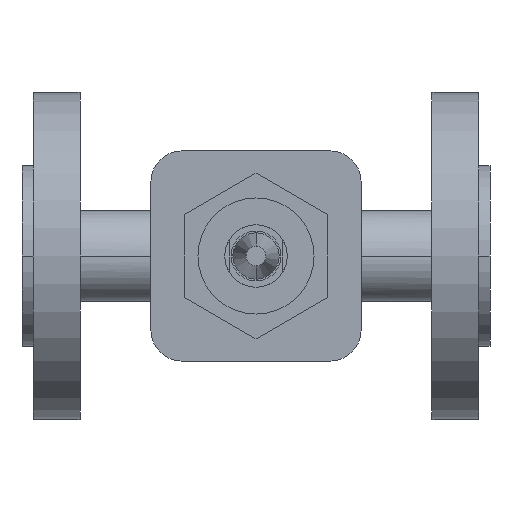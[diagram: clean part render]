
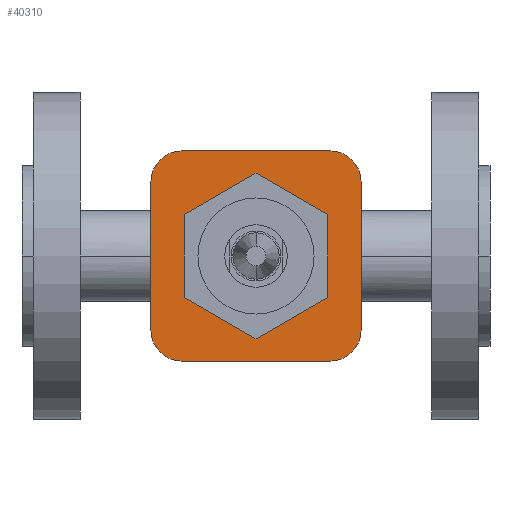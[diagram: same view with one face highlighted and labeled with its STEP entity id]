
A CAD part, front view. The second image highlights one B-rep face of the part: STEP entity #40310.
In plain terms, the highlighted planar face has unit normal (0, -1, 0).
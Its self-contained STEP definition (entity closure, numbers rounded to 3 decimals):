
#13800=CARTESIAN_POINT('',(54.,-62.,0.));
#13810=VERTEX_POINT('',#13800);
#13860=CARTESIAN_POINT('',(75.,-62.,0.));
#13870=DIRECTION('',(0.,1.,0.));
#13880=DIRECTION('',(1.,0.,0.));
#13890=AXIS2_PLACEMENT_3D('',#13860,#13870,#13880);
#13900=CIRCLE('',#13890,21.);
#13910=CARTESIAN_POINT('',(96.,-62.,0.));
#13920=VERTEX_POINT('',#13910);
#13930=EDGE_CURVE('',#13810,#13920,#13900,.T.);
#28080=CARTESIAN_POINT('',(51.312,-62.,-33.688));
#28090=VERTEX_POINT('',#28080);
#28250=CARTESIAN_POINT('',(41.312,-62.,-23.688));
#28260=VERTEX_POINT('',#28250);
#28290=CARTESIAN_POINT('',(51.312,-62.,-23.688));
#28300=DIRECTION('',(0.,-1.,0.));
#28310=DIRECTION('',(0.,0.,-1.));
#28320=AXIS2_PLACEMENT_3D('',#28290,#28300,#28310);
#28330=CIRCLE('',#28320,10.);
#28340=EDGE_CURVE('',#28260,#28090,#28330,.T.);
#32230=CARTESIAN_POINT('',(108.688,-62.,-23.688));
#32240=VERTEX_POINT('',#32230);
#32400=CARTESIAN_POINT('',(98.688,-62.,-33.688));
#32410=VERTEX_POINT('',#32400);
#32440=CARTESIAN_POINT('',(98.688,-62.,-23.688));
#32450=DIRECTION('',(0.,-1.,0.));
#32460=DIRECTION('',(1.,0.,0.));
#32470=AXIS2_PLACEMENT_3D('',#32440,#32450,#32460);
#32480=CIRCLE('',#32470,10.);
#32490=EDGE_CURVE('',#32410,#32240,#32480,.T.);
#37530=CARTESIAN_POINT('',(103.219,-62.,-33.688));
#37540=DIRECTION('',(1.,0.,0.));
#37550=VECTOR('',#37540,1.);
#37560=LINE('',#37530,#37550);
#37570=EDGE_CURVE('',#28090,#32410,#37560,.T.);
#39760=CARTESIAN_POINT('',(107.75,-62.,0.));
#39770=DIRECTION('',(0.,-1.,0.));
#39780=DIRECTION('',(-1.,0.,0.));
#39790=AXIS2_PLACEMENT_3D('',#39760,#39770,#39780);
#39800=PLANE('',#39790);
#39810=CARTESIAN_POINT('',(51.312,-62.,23.688));
#39820=DIRECTION('',(0.,-1.,0.));
#39830=DIRECTION('',(-1.,0.,0.));
#39840=AXIS2_PLACEMENT_3D('',#39810,#39820,#39830);
#39850=CIRCLE('',#39840,10.);
#39860=CARTESIAN_POINT('',(51.312,-62.,33.688));
#39870=VERTEX_POINT('',#39860);
#39880=CARTESIAN_POINT('',(41.312,-62.,23.688));
#39890=VERTEX_POINT('',#39880);
#39900=EDGE_CURVE('',#39870,#39890,#39850,.T.);
#39910=ORIENTED_EDGE('',*,*,#39900,.T.);
#39920=CARTESIAN_POINT('',(79.531,-62.,33.688));
#39930=DIRECTION('',(-1.,0.,0.));
#39940=VECTOR('',#39930,1.);
#39950=LINE('',#39920,#39940);
#39960=CARTESIAN_POINT('',(98.688,-62.,33.688));
#39970=VERTEX_POINT('',#39960);
#39980=EDGE_CURVE('',#39970,#39870,#39950,.T.);
#39990=ORIENTED_EDGE('',*,*,#39980,.T.);
#40000=CARTESIAN_POINT('',(98.688,-62.,23.688));
#40010=DIRECTION('',(0.,-1.,0.));
#40020=DIRECTION('',(0.,0.,1.));
#40030=AXIS2_PLACEMENT_3D('',#40000,#40010,#40020);
#40040=CIRCLE('',#40030,10.);
#40050=CARTESIAN_POINT('',(108.688,-62.,23.688));
#40060=VERTEX_POINT('',#40050);
#40070=EDGE_CURVE('',#40060,#39970,#40040,.T.);
#40080=ORIENTED_EDGE('',*,*,#40070,.T.);
#40090=CARTESIAN_POINT('',(108.688,-62.,11.844));
#40100=DIRECTION('',(0.,0.,1.));
#40110=VECTOR('',#40100,1.);
#40120=LINE('',#40090,#40110);
#40130=EDGE_CURVE('',#32240,#40060,#40120,.T.);
#40140=ORIENTED_EDGE('',*,*,#40130,.T.);
#40150=ORIENTED_EDGE('',*,*,#32490,.T.);
#40160=ORIENTED_EDGE('',*,*,#37570,.T.);
#40170=ORIENTED_EDGE('',*,*,#28340,.T.);
#40180=CARTESIAN_POINT('',(41.312,-62.,-11.844));
#40190=DIRECTION('',(0.,0.,-1.));
#40200=VECTOR('',#40190,1.);
#40210=LINE('',#40180,#40200);
#40220=EDGE_CURVE('',#39890,#28260,#40210,.T.);
#40230=ORIENTED_EDGE('',*,*,#40220,.T.);
#40240=EDGE_LOOP('',(#40230,#40170,#40160,#40150,#40140,#40080,#39990,
#39910));
#40250=FACE_OUTER_BOUND('',#40240,.T.);
#40260=EDGE_CURVE('',#13920,#13810,#13900,.T.);
#40270=ORIENTED_EDGE('',*,*,#40260,.T.);
#40280=ORIENTED_EDGE('',*,*,#13930,.T.);
#40290=EDGE_LOOP('',(#40280,#40270));
#40300=FACE_BOUND('',#40290,.T.);
#40310=ADVANCED_FACE('',(#40250,#40300),#39800,.T.);
